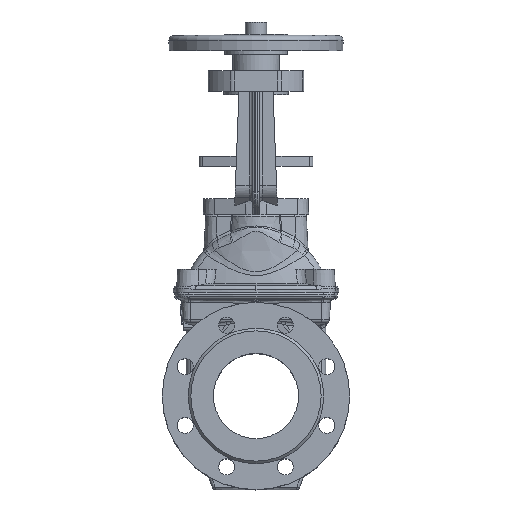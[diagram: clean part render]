
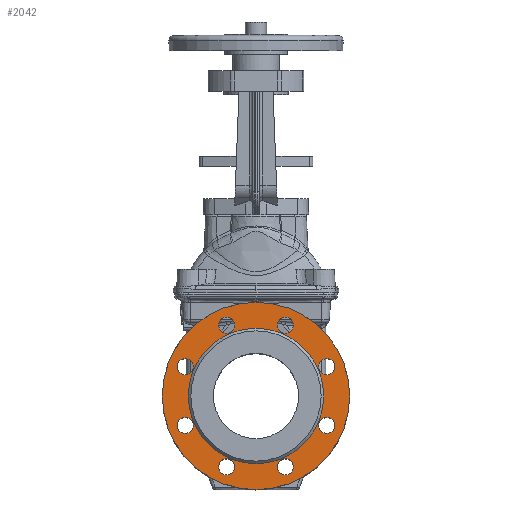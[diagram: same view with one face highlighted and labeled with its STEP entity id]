
A CAD part, top view. The second image highlights one B-rep face of the part: STEP entity #2042.
In plain terms, the highlighted planar face has unit normal (0, 0, 1).
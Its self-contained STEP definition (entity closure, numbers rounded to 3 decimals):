
#2042 = ADVANCED_FACE ( 'NONE', ( #3067, #3065, #3071, #3062, #3072, #3070, #3074, #3075, #3076, #3077 ), #2497, .T. ) ;
#2496 = DIRECTION ( 'NONE',  ( 0., 0., 1. ) ) ;
#2497 = PLANE ( 'NONE',  #12502 ) ;
#2499 = CARTESIAN_POINT ( 'NONE',  ( 0., 79.5, 111.5 ) ) ;
#2501 = DIRECTION ( 'NONE',  ( 1., 0., 0. ) ) ;
#3062 = FACE_BOUND ( 'NONE', #30248, .T. ) ;
#3065 = FACE_BOUND ( 'NONE', #30271, .T. ) ;
#3067 = FACE_BOUND ( 'NONE', #30160, .T. ) ;
#3070 = FACE_BOUND ( 'NONE', #30018, .T. ) ;
#3071 = FACE_BOUND ( 'NONE', #30225, .T. ) ;
#3072 = FACE_BOUND ( 'NONE', #29966, .T. ) ;
#3074 = FACE_BOUND ( 'NONE', #29965, .T. ) ;
#3075 = FACE_BOUND ( 'NONE', #29991, .T. ) ;
#3076 = FACE_OUTER_BOUND ( 'NONE', #30009, .T. ) ;
#3077 = FACE_BOUND ( 'NONE', #30245, .T. ) ;
#7747 = CARTESIAN_POINT ( 'NONE',  ( 0., 0., 111.5 ) ) ;
#7748 = DIRECTION ( 'NONE',  ( 0., 0., 1. ) ) ;
#7749 = DIRECTION ( 'NONE',  ( 1., 0., 0. ) ) ;
#9251 = EDGE_CURVE ( 'NONE', #20043, #20043, #17219, .T. ) ;
#9323 = EDGE_CURVE ( 'NONE', #20046, #20046, #17328, .T. ) ;
#10493 = CARTESIAN_POINT ( 'NONE',  ( -34.442, 83.149, 111.5 ) ) ;
#10494 = DIRECTION ( 'NONE',  ( 0., 0., 1. ) ) ;
#10495 = DIRECTION ( 'NONE',  ( 1., 0., 0. ) ) ;
#12502 = AXIS2_PLACEMENT_3D ( 'NONE', #2499, #2496, #2501 ) ;
#16867 = CARTESIAN_POINT ( 'NONE',  ( 34.442, -83.149, 111.5 ) ) ;
#16868 = DIRECTION ( 'NONE',  ( 0., 0., -1. ) ) ;
#16869 = DIRECTION ( 'NONE',  ( -1., 0., 0. ) ) ;
#17219 = CIRCLE ( 'NONE', #18167, 9.5 ) ;
#17328 = CIRCLE ( 'NONE', #18200, 9.5 ) ;
#18167 = AXIS2_PLACEMENT_3D ( 'NONE', #16867, #16868, #16869 ) ;
#18200 = AXIS2_PLACEMENT_3D ( 'NONE', #10493, #10494, #10495 ) ;
#19807 = CIRCLE ( 'NONE', #27576, 9.5 ) ;
#19853 = CIRCLE ( 'NONE', #27610, 9.5 ) ;
#19858 = CIRCLE ( 'NONE', #27618, 110. ) ;
#19865 = CIRCLE ( 'NONE', #27621, 9.5 ) ;
#19868 = CIRCLE ( 'NONE', #27623, 9.5 ) ;
#19873 = CIRCLE ( 'NONE', #27629, 9.5 ) ;
#19878 = CIRCLE ( 'NONE', #27640, 9.5 ) ;
#20043 = VERTEX_POINT ( 'NONE', #23408 ) ;
#20046 = VERTEX_POINT ( 'NONE', #23411 ) ;
#20088 = VERTEX_POINT ( 'NONE', #23453 ) ;
#20096 = VERTEX_POINT ( 'NONE', #23461 ) ;
#20099 = VERTEX_POINT ( 'NONE', #23464 ) ;
#20101 = VERTEX_POINT ( 'NONE', #23466 ) ;
#20103 = VERTEX_POINT ( 'NONE', #23468 ) ;
#20104 = VERTEX_POINT ( 'NONE', #23469 ) ;
#20105 = VERTEX_POINT ( 'NONE', #23470 ) ;
#20106 = VERTEX_POINT ( 'NONE', #23471 ) ;
#22211 = CARTESIAN_POINT ( 'NONE',  ( -34.442, -83.149, 111.5 ) ) ;
#22212 = DIRECTION ( 'NONE',  ( 0., 0., 1. ) ) ;
#22213 = DIRECTION ( 'NONE',  ( 1., 0., 0. ) ) ;
#22409 = CARTESIAN_POINT ( 'NONE',  ( 34.442, 83.149, 111.5 ) ) ;
#22410 = DIRECTION ( 'NONE',  ( 0., 0., -1. ) ) ;
#22411 = DIRECTION ( 'NONE',  ( -1., 0., 0. ) ) ;
#22439 = CARTESIAN_POINT ( 'NONE',  ( 0., 0., 111.5 ) ) ;
#22440 = DIRECTION ( 'NONE',  ( 0., 0., 1. ) ) ;
#22441 = DIRECTION ( 'NONE',  ( 1., 0., 0. ) ) ;
#22455 = CARTESIAN_POINT ( 'NONE',  ( 83.149, 34.442, 111.5 ) ) ;
#22456 = DIRECTION ( 'NONE',  ( 0., 0., -1. ) ) ;
#22457 = DIRECTION ( 'NONE',  ( -1., 0., 0. ) ) ;
#22462 = CARTESIAN_POINT ( 'NONE',  ( 83.149, -34.442, 111.5 ) ) ;
#22463 = DIRECTION ( 'NONE',  ( 0., 0., -1. ) ) ;
#22464 = DIRECTION ( 'NONE',  ( -1., 0., 0. ) ) ;
#22523 = CARTESIAN_POINT ( 'NONE',  ( -83.149, 34.442, 111.5 ) ) ;
#22524 = DIRECTION ( 'NONE',  ( 0., 0., 1. ) ) ;
#22525 = DIRECTION ( 'NONE',  ( 1., 0., 0. ) ) ;
#22533 = CARTESIAN_POINT ( 'NONE',  ( -83.149, -34.442, 111.5 ) ) ;
#22534 = DIRECTION ( 'NONE',  ( 0., 0., 1. ) ) ;
#22639 = DIRECTION ( 'NONE',  ( 1., 0., 0. ) ) ;
#23408 = CARTESIAN_POINT ( 'NONE',  ( 24.942, -83.149, 111.5 ) ) ;
#23411 = CARTESIAN_POINT ( 'NONE',  ( -24.942, 83.149, 111.5 ) ) ;
#23453 = CARTESIAN_POINT ( 'NONE',  ( 79.5, 0., 111.5 ) ) ;
#23461 = CARTESIAN_POINT ( 'NONE',  ( -24.942, -83.149, 111.5 ) ) ;
#23464 = CARTESIAN_POINT ( 'NONE',  ( 24.942, 83.149, 111.5 ) ) ;
#23466 = CARTESIAN_POINT ( 'NONE',  ( 110., 0., 111.5 ) ) ;
#23468 = CARTESIAN_POINT ( 'NONE',  ( 73.649, 34.442, 111.5 ) ) ;
#23469 = CARTESIAN_POINT ( 'NONE',  ( 73.649, -34.442, 111.5 ) ) ;
#23470 = CARTESIAN_POINT ( 'NONE',  ( -73.649, 34.442, 111.5 ) ) ;
#23471 = CARTESIAN_POINT ( 'NONE',  ( -73.649, -34.442, 111.5 ) ) ;
#24623 = EDGE_CURVE ( 'NONE', #20088, #20088, #28183, .T. ) ;
#27233 = AXIS2_PLACEMENT_3D ( 'NONE', #7747, #7748, #7749 ) ;
#27576 = AXIS2_PLACEMENT_3D ( 'NONE', #22211, #22212, #22213 ) ;
#27610 = AXIS2_PLACEMENT_3D ( 'NONE', #22409, #22410, #22411 ) ;
#27618 = AXIS2_PLACEMENT_3D ( 'NONE', #22439, #22440, #22441 ) ;
#27621 = AXIS2_PLACEMENT_3D ( 'NONE', #22455, #22456, #22457 ) ;
#27623 = AXIS2_PLACEMENT_3D ( 'NONE', #22462, #22463, #22464 ) ;
#27629 = AXIS2_PLACEMENT_3D ( 'NONE', #22523, #22524, #22525 ) ;
#27640 = AXIS2_PLACEMENT_3D ( 'NONE', #22533, #22534, #22639 ) ;
#28183 = CIRCLE ( 'NONE', #27233, 79.5 ) ;
#29173 = ORIENTED_EDGE ( 'NONE', *, *, #24623, .F. ) ;
#29174 = ORIENTED_EDGE ( 'NONE', *, *, #34678, .T. ) ;
#29175 = ORIENTED_EDGE ( 'NONE', *, *, #9323, .F. ) ;
#29176 = ORIENTED_EDGE ( 'NONE', *, *, #34697, .F. ) ;
#29177 = ORIENTED_EDGE ( 'NONE', *, *, #34700, .F. ) ;
#29178 = ORIENTED_EDGE ( 'NONE', *, *, #34624, .F. ) ;
#29179 = ORIENTED_EDGE ( 'NONE', *, *, #34672, .T. ) ;
#29180 = ORIENTED_EDGE ( 'NONE', *, *, #34684, .T. ) ;
#29181 = ORIENTED_EDGE ( 'NONE', *, *, #34686, .T. ) ;
#29182 = ORIENTED_EDGE ( 'NONE', *, *, #9251, .T. ) ;
#29965 = EDGE_LOOP ( 'NONE', ( #29176 ) ) ;
#29966 = EDGE_LOOP ( 'NONE', ( #29178 ) ) ;
#29991 = EDGE_LOOP ( 'NONE', ( #29175 ) ) ;
#30009 = EDGE_LOOP ( 'NONE', ( #29174 ) ) ;
#30018 = EDGE_LOOP ( 'NONE', ( #29177 ) ) ;
#30160 = EDGE_LOOP ( 'NONE', ( #29182 ) ) ;
#30225 = EDGE_LOOP ( 'NONE', ( #29180 ) ) ;
#30245 = EDGE_LOOP ( 'NONE', ( #29173 ) ) ;
#30248 = EDGE_LOOP ( 'NONE', ( #29179 ) ) ;
#30271 = EDGE_LOOP ( 'NONE', ( #29181 ) ) ;
#34624 = EDGE_CURVE ( 'NONE', #20096, #20096, #19807, .T. ) ;
#34672 = EDGE_CURVE ( 'NONE', #20099, #20099, #19853, .T. ) ;
#34678 = EDGE_CURVE ( 'NONE', #20101, #20101, #19858, .T. ) ;
#34684 = EDGE_CURVE ( 'NONE', #20103, #20103, #19865, .T. ) ;
#34686 = EDGE_CURVE ( 'NONE', #20104, #20104, #19868, .T. ) ;
#34697 = EDGE_CURVE ( 'NONE', #20105, #20105, #19873, .T. ) ;
#34700 = EDGE_CURVE ( 'NONE', #20106, #20106, #19878, .T. ) ;
